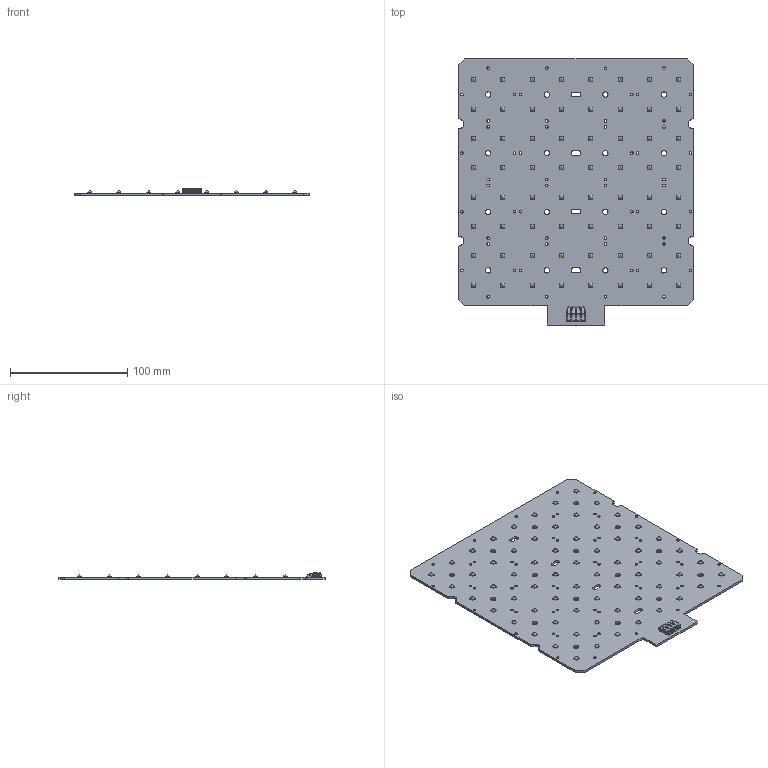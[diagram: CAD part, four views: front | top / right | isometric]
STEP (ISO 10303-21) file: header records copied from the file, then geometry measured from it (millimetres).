
FILE_DESCRIPTION(('ML64R10AH'),'2;1');
FILE_NAME('Z:\Mixdeal\Catalogo\Modelos 3D\STEP\ML64R10AH.stp','2015-06-26T15:20:34',('Nicolas Kretzig'),('MIXDEAL SA'),'Autodesk Inventor 2011','Autodesk Inventor 2011','');
FILE_SCHEMA(('AUTOMOTIVE_DESIGN { 1 0 10303 214 1 1 1 1 }'));
Length unit declared in the file: millimetre
Products named in the file (3): Placa ML64R10AH; ML64R10AH; 46-101-1001
Assembly tree (5 placements, depth 2):
  Placa ML64R10AH
    ML64R10AH
    46-101-1001  x4
Bounding box: 200.15 x 226.99 x 5.95 mm (x, y, z)
Volume: 85799.3 mm3; surface area: 89164.2 mm2
Topology: 5 solids, 9 shells, 1984 faces, 5078 edges, 3292 vertices
Faces by surface type: plane 1418, bspline 260, cylinder 222, sphere 64, torus 16, cone 4
Full cylindrical faces by diameter (mm): 0.6 x4, 2.2 x56, 4.5 x16
Entity records: 32655 total; most frequent: CARTESIAN_POINT 8061, ORIENTED_EDGE 4706, DIRECTION 4651, EDGE_CURVE 2353, VECTOR 1705, LINE 1705, VERTEX_POINT 1529, AXIS2_PLACEMENT_3D 1473
